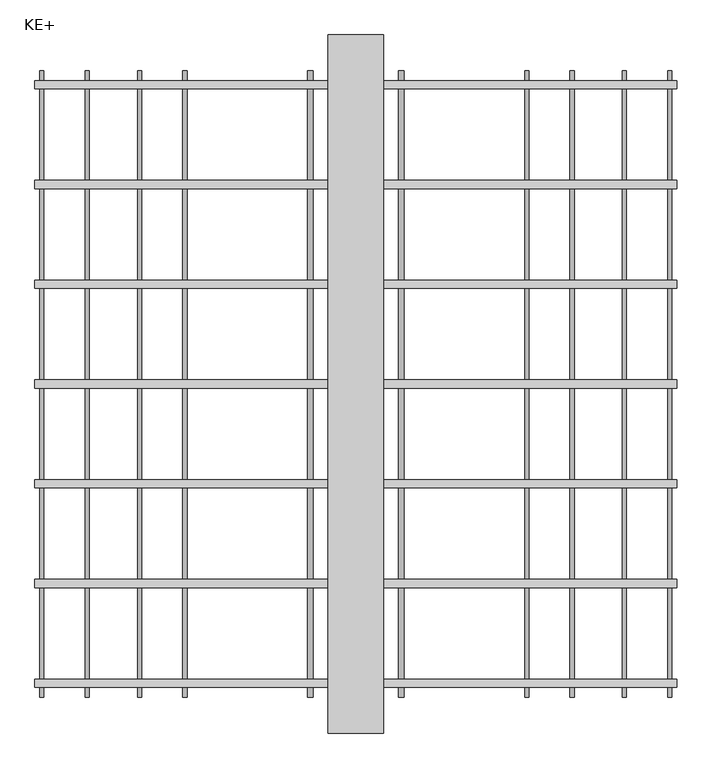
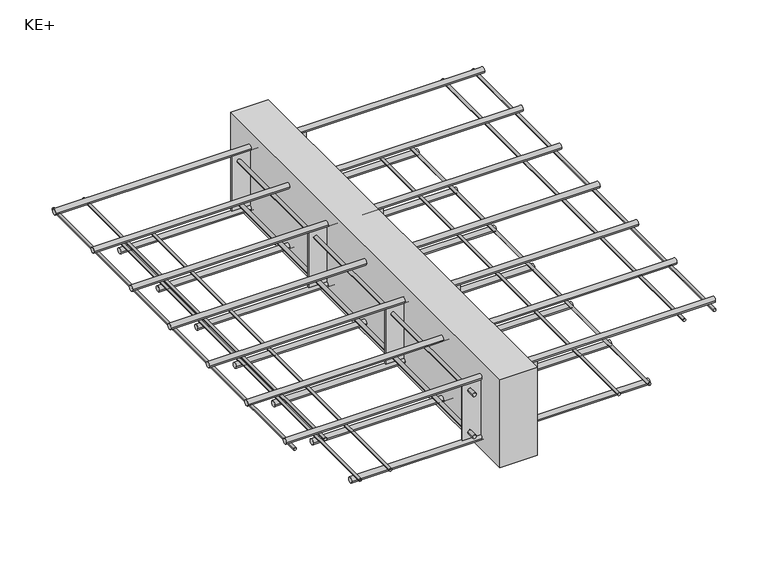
"""IFC4 building model written with IfcOpenShell, lengths in millimetres: fastener geometry, ACINOXplus_Typenreihe_K : KE+."""

from ifc_helpers import new_model, si_unit, point, frame, frame_2d, origin, place, context, project, spatial, polyline, circle_curve, trimmed, segment, composite_curve, outline, extrude, source, transform, mapped, element, save


def ke_af1f16a5(model_context):
    return source(origin(), model_context, "Body", "SweptSolid", [
        extrude(outline(polyline([(40.0, 500.0), (40.0, -500.0), (-40.0, -500.0), (-40.0, 500.0), (40.0, 500.0)])), frame((0.0, 0.0, -200.0), z_axis=(0.0, 0.0, 1.0), x_axis=(1.0, 0.0, 0.0)), (0.0, 0.0, 1.0), 200.0),
        extrude(outline(polyline([(80.0, -141.3571429), (80.0, -144.3571429), (-80.0, -144.3571429), (-80.0, -141.3571429), (80.0, -141.3571429)])), frame((0.0, 0.0, -167.0), z_axis=(0.0, 0.0, 1.0), x_axis=(1.0, 0.0, 0.0)), (0.0, 0.0, 1.0), 125.0),
        extrude(outline(polyline([(80.0, 144.3571429), (80.0, 141.3571429), (-80.0, 141.3571429), (-80.0, 144.3571429), (80.0, 144.3571429)])), frame((0.0, 0.0, -167.0), z_axis=(0.0, 0.0, 1.0), x_axis=(1.0, 0.0, 0.0)), (0.0, 0.0, 1.0), 125.0),
        extrude(outline(polyline([(80.0, -427.0714286), (80.0, -430.0714286), (-80.0, -430.0714286), (-80.0, -427.0714286), (80.0, -427.0714286)])), frame((0.0, 0.0, -167.0), z_axis=(0.0, 0.0, 1.0), x_axis=(1.0, 0.0, 0.0)), (0.0, 0.0, 1.0), 125.0),
        extrude(outline(polyline([(80.0, 430.0714286), (80.0, 427.0714286), (-80.0, 427.0714286), (-80.0, 430.0714286), (80.0, 430.0714286)])), frame((0.0, 0.0, -167.0), z_axis=(0.0, 0.0, 1.0), x_axis=(1.0, 0.0, 0.0)), (0.0, 0.0, 1.0), 125.0),
        extrude(outline(composite_curve([segment(trimmed(circle_curve(frame_2d((-152.0, -65.0)), 4.0), [point((-152.0, -61.0))], [point((-152.0, -69.0))], False, "CARTESIAN"), True, "CONTINUOUS"), segment(trimmed(circle_curve(frame_2d((-152.0, -65.0)), 4.0), [point((-152.0, -69.0))], [point((-152.0, -61.0))], False, "CARTESIAN"), True, "CONTINUOUS")], self_intersect=False)), frame((0.0, -448.5714286, 0.0), z_axis=(0.0, 1.0, 0.0), x_axis=(0.0, 0.0, 1.0)), (0.0, 0.0, 1.0), 18.5),
        extrude(outline(composite_curve([segment(trimmed(circle_curve(frame_2d((-152.0, -65.0)), 4.0), [point((-152.0, -69.0))], [point((-152.0, -61.0))], False, "CARTESIAN"), True, "CONTINUOUS"), segment(trimmed(circle_curve(frame_2d((-152.0, -65.0)), 4.0), [point((-152.0, -61.0))], [point((-152.0, -69.0))], False, "CARTESIAN"), True, "CONTINUOUS")], self_intersect=False)), frame((0.0, -427.0714286, 0.0), z_axis=(0.0, 1.0, 0.0), x_axis=(0.0, 0.0, 1.0)), (0.0, 0.0, 1.0), 568.4285714),
        extrude(outline(composite_curve([segment(trimmed(circle_curve(frame_2d((-152.0, -65.0)), 4.0), [point((-152.0, -69.0))], [point((-152.0, -61.0))], False, "CARTESIAN"), True, "CONTINUOUS"), segment(trimmed(circle_curve(frame_2d((-152.0, -65.0)), 4.0), [point((-152.0, -61.0))], [point((-152.0, -69.0))], False, "CARTESIAN"), True, "CONTINUOUS")], self_intersect=False)), frame((0.0, 430.0714286, 0.0), z_axis=(0.0, 1.0, 0.0), x_axis=(0.0, 0.0, 1.0)), (0.0, 0.0, 1.0), 18.5),
        extrude(outline(composite_curve([segment(trimmed(circle_curve(frame_2d((-152.0, -65.0)), 4.0), [point((-152.0, -69.0))], [point((-152.0, -61.0))], False, "CARTESIAN"), True, "CONTINUOUS"), segment(trimmed(circle_curve(frame_2d((-152.0, -65.0)), 4.0), [point((-152.0, -61.0))], [point((-152.0, -69.0))], False, "CARTESIAN"), True, "CONTINUOUS")], self_intersect=False)), frame((0.0, 144.3571429, 0.0), z_axis=(0.0, 1.0, 0.0), x_axis=(0.0, 0.0, 1.0)), (0.0, 0.0, 1.0), 282.7142857),
        extrude(outline(composite_curve([segment(trimmed(circle_curve(frame_2d((-152.0, 65.0)), 4.0), [point((-152.0, 69.0))], [point((-152.0, 61.0))], False, "CARTESIAN"), True, "CONTINUOUS"), segment(trimmed(circle_curve(frame_2d((-152.0, 65.0)), 4.0), [point((-152.0, 61.0))], [point((-152.0, 69.0))], False, "CARTESIAN"), True, "CONTINUOUS")], self_intersect=False)), frame((0.0, -448.5714286, 0.0), z_axis=(0.0, 1.0, 0.0), x_axis=(0.0, 0.0, 1.0)), (0.0, 0.0, 1.0), 18.5),
        extrude(outline(composite_curve([segment(trimmed(circle_curve(frame_2d((-152.0, 65.0)), 4.0), [point((-152.0, 61.0))], [point((-152.0, 69.0))], False, "CARTESIAN"), True, "CONTINUOUS"), segment(trimmed(circle_curve(frame_2d((-152.0, 65.0)), 4.0), [point((-152.0, 69.0))], [point((-152.0, 61.0))], False, "CARTESIAN"), True, "CONTINUOUS")], self_intersect=False)), frame((0.0, -427.0714286, 0.0), z_axis=(0.0, 1.0, 0.0), x_axis=(0.0, 0.0, 1.0)), (0.0, 0.0, 1.0), 568.4285714),
        extrude(outline(composite_curve([segment(trimmed(circle_curve(frame_2d((-152.0, 65.0)), 4.0), [point((-152.0, 61.0))], [point((-152.0, 69.0))], False, "CARTESIAN"), True, "CONTINUOUS"), segment(trimmed(circle_curve(frame_2d((-152.0, 65.0)), 4.0), [point((-152.0, 69.0))], [point((-152.0, 61.0))], False, "CARTESIAN"), True, "CONTINUOUS")], self_intersect=False)), frame((0.0, 430.0714286, 0.0), z_axis=(0.0, 1.0, 0.0), x_axis=(0.0, 0.0, 1.0)), (0.0, 0.0, 1.0), 18.5),
        extrude(outline(composite_curve([segment(trimmed(circle_curve(frame_2d((-152.0, 65.0)), 4.0), [point((-152.0, 61.0))], [point((-152.0, 69.0))], False, "CARTESIAN"), True, "CONTINUOUS"), segment(trimmed(circle_curve(frame_2d((-152.0, 65.0)), 4.0), [point((-152.0, 69.0))], [point((-152.0, 61.0))], False, "CARTESIAN"), True, "CONTINUOUS")], self_intersect=False)), frame((0.0, 144.3571429, 0.0), z_axis=(0.0, 1.0, 0.0), x_axis=(0.0, 0.0, 1.0)), (0.0, 0.0, 1.0), 282.7142857),
        extrude(outline(composite_curve([segment(trimmed(circle_curve(frame_2d((-57.0, -65.0)), 4.0), [point((-57.0, -61.0))], [point((-57.0, -69.0))], False, "CARTESIAN"), True, "CONTINUOUS"), segment(trimmed(circle_curve(frame_2d((-57.0, -65.0)), 4.0), [point((-57.0, -69.0))], [point((-57.0, -61.0))], False, "CARTESIAN"), True, "CONTINUOUS")], self_intersect=False)), frame((0.0, -448.5714286, 0.0), z_axis=(0.0, 1.0, 0.0), x_axis=(0.0, 0.0, 1.0)), (0.0, 0.0, 1.0), 18.5),
        extrude(outline(composite_curve([segment(trimmed(circle_curve(frame_2d((-57.0, -65.0)), 4.0), [point((-57.0, -69.0))], [point((-57.0, -61.0))], False, "CARTESIAN"), True, "CONTINUOUS"), segment(trimmed(circle_curve(frame_2d((-57.0, -65.0)), 4.0), [point((-57.0, -61.0))], [point((-57.0, -69.0))], False, "CARTESIAN"), True, "CONTINUOUS")], self_intersect=False)), frame((0.0, -427.0714286, 0.0), z_axis=(0.0, 1.0, 0.0), x_axis=(0.0, 0.0, 1.0)), (0.0, 0.0, 1.0), 568.4285714),
        extrude(outline(composite_curve([segment(trimmed(circle_curve(frame_2d((-57.0, -65.0)), 4.0), [point((-57.0, -69.0))], [point((-57.0, -61.0))], False, "CARTESIAN"), True, "CONTINUOUS"), segment(trimmed(circle_curve(frame_2d((-57.0, -65.0)), 4.0), [point((-57.0, -61.0))], [point((-57.0, -69.0))], False, "CARTESIAN"), True, "CONTINUOUS")], self_intersect=False)), frame((0.0, 430.0714286, 0.0), z_axis=(0.0, 1.0, 0.0), x_axis=(0.0, 0.0, 1.0)), (0.0, 0.0, 1.0), 18.5),
        extrude(outline(composite_curve([segment(trimmed(circle_curve(frame_2d((-57.0, -65.0)), 4.0), [point((-57.0, -69.0))], [point((-57.0, -61.0))], False, "CARTESIAN"), True, "CONTINUOUS"), segment(trimmed(circle_curve(frame_2d((-57.0, -65.0)), 4.0), [point((-57.0, -61.0))], [point((-57.0, -69.0))], False, "CARTESIAN"), True, "CONTINUOUS")], self_intersect=False)), frame((0.0, 144.3571429, 0.0), z_axis=(0.0, 1.0, 0.0), x_axis=(0.0, 0.0, 1.0)), (0.0, 0.0, 1.0), 282.7142857),
        extrude(outline(composite_curve([segment(trimmed(circle_curve(frame_2d((-57.0, 65.0)), 4.0), [point((-57.0, 69.0))], [point((-57.0, 61.0))], False, "CARTESIAN"), True, "CONTINUOUS"), segment(trimmed(circle_curve(frame_2d((-57.0, 65.0)), 4.0), [point((-57.0, 61.0))], [point((-57.0, 69.0))], False, "CARTESIAN"), True, "CONTINUOUS")], self_intersect=False)), frame((0.0, -448.5714286, 0.0), z_axis=(0.0, 1.0, 0.0), x_axis=(0.0, 0.0, 1.0)), (0.0, 0.0, 1.0), 18.5),
        extrude(outline(composite_curve([segment(trimmed(circle_curve(frame_2d((-57.0, 65.0)), 4.0), [point((-57.0, 61.0))], [point((-57.0, 69.0))], False, "CARTESIAN"), True, "CONTINUOUS"), segment(trimmed(circle_curve(frame_2d((-57.0, 65.0)), 4.0), [point((-57.0, 69.0))], [point((-57.0, 61.0))], False, "CARTESIAN"), True, "CONTINUOUS")], self_intersect=False)), frame((0.0, -427.0714286, 0.0), z_axis=(0.0, 1.0, 0.0), x_axis=(0.0, 0.0, 1.0)), (0.0, 0.0, 1.0), 568.4285714),
        extrude(outline(composite_curve([segment(trimmed(circle_curve(frame_2d((-57.0, 65.0)), 4.0), [point((-57.0, 61.0))], [point((-57.0, 69.0))], False, "CARTESIAN"), True, "CONTINUOUS"), segment(trimmed(circle_curve(frame_2d((-57.0, 65.0)), 4.0), [point((-57.0, 69.0))], [point((-57.0, 61.0))], False, "CARTESIAN"), True, "CONTINUOUS")], self_intersect=False)), frame((0.0, 430.0714286, 0.0), z_axis=(0.0, 1.0, 0.0), x_axis=(0.0, 0.0, 1.0)), (0.0, 0.0, 1.0), 18.5),
        extrude(outline(composite_curve([segment(trimmed(circle_curve(frame_2d((-57.0, 65.0)), 4.0), [point((-57.0, 61.0))], [point((-57.0, 69.0))], False, "CARTESIAN"), True, "CONTINUOUS"), segment(trimmed(circle_curve(frame_2d((-57.0, 65.0)), 4.0), [point((-57.0, 69.0))], [point((-57.0, 61.0))], False, "CARTESIAN"), True, "CONTINUOUS")], self_intersect=False)), frame((0.0, 144.3571429, 0.0), z_axis=(0.0, 1.0, 0.0), x_axis=(0.0, 0.0, 1.0)), (0.0, 0.0, 1.0), 282.7142857),
        extrude(outline(composite_curve([segment(trimmed(circle_curve(frame_2d((142.8571429, -173.0)), 6.0), [point((136.8571429, -173.0))], [point((148.8571429, -173.0))], False, "CARTESIAN"), True, "CONTINUOUS"), segment(trimmed(circle_curve(frame_2d((142.8571429, -173.0)), 6.0), [point((148.8571429, -173.0))], [point((136.8571429, -173.0))], False, "CARTESIAN"), True, "CONTINUOUS")], self_intersect=False)), frame((-320.0, 0.0, 0.0), z_axis=(1.0, 0.0, 0.0), x_axis=(0.0, 1.0, 0.0)), (0.0, 0.0, 1.0), 640.0),
        extrude(outline(composite_curve([segment(trimmed(circle_curve(frame_2d((0.0, -173.0)), 6.0), [point((-6.0, -173.0))], [point((6.0, -173.0))], False, "CARTESIAN"), True, "CONTINUOUS"), segment(trimmed(circle_curve(frame_2d((0.0, -173.0)), 6.0), [point((6.0, -173.0))], [point((-6.0, -173.0))], False, "CARTESIAN"), True, "CONTINUOUS")], self_intersect=False)), frame((-320.0, 0.0, 0.0), z_axis=(1.0, 0.0, 0.0), x_axis=(0.0, 1.0, 0.0)), (0.0, 0.0, 1.0), 640.0),
        extrude(outline(composite_curve([segment(trimmed(circle_curve(frame_2d((-142.8571429, -173.0)), 6.0), [point((-148.8571429, -173.0))], [point((-136.8571429, -173.0))], False, "CARTESIAN"), True, "CONTINUOUS"), segment(trimmed(circle_curve(frame_2d((-142.8571429, -173.0)), 6.0), [point((-136.8571429, -173.0))], [point((-148.8571429, -173.0))], False, "CARTESIAN"), True, "CONTINUOUS")], self_intersect=False)), frame((-320.0, 0.0, 0.0), z_axis=(1.0, 0.0, 0.0), x_axis=(0.0, 1.0, 0.0)), (0.0, 0.0, 1.0), 640.0),
        extrude(outline(composite_curve([segment(trimmed(circle_curve(frame_2d((285.7142857, -173.0)), 6.0), [point((279.7142857, -173.0))], [point((291.7142857, -173.0))], False, "CARTESIAN"), True, "CONTINUOUS"), segment(trimmed(circle_curve(frame_2d((285.7142857, -173.0)), 6.0), [point((291.7142857, -173.0))], [point((279.7142857, -173.0))], False, "CARTESIAN"), True, "CONTINUOUS")], self_intersect=False)), frame((-320.0, 0.0, 0.0), z_axis=(1.0, 0.0, 0.0), x_axis=(0.0, 1.0, 0.0)), (0.0, 0.0, 1.0), 640.0),
        extrude(outline(composite_curve([segment(trimmed(circle_curve(frame_2d((428.5714286, -173.0)), 6.0), [point((422.5714286, -173.0))], [point((434.5714286, -173.0))], False, "CARTESIAN"), True, "CONTINUOUS"), segment(trimmed(circle_curve(frame_2d((428.5714286, -173.0)), 6.0), [point((434.5714286, -173.0))], [point((422.5714286, -173.0))], False, "CARTESIAN"), True, "CONTINUOUS")], self_intersect=False)), frame((-320.0, 0.0, 0.0), z_axis=(1.0, 0.0, 0.0), x_axis=(0.0, 1.0, 0.0)), (0.0, 0.0, 1.0), 640.0),
        extrude(outline(composite_curve([segment(trimmed(circle_curve(frame_2d((-285.7142857, -173.0)), 6.0), [point((-291.7142857, -173.0))], [point((-279.7142857, -173.0))], False, "CARTESIAN"), True, "CONTINUOUS"), segment(trimmed(circle_curve(frame_2d((-285.7142857, -173.0)), 6.0), [point((-279.7142857, -173.0))], [point((-291.7142857, -173.0))], False, "CARTESIAN"), True, "CONTINUOUS")], self_intersect=False)), frame((-320.0, 0.0, 0.0), z_axis=(1.0, 0.0, 0.0), x_axis=(0.0, 1.0, 0.0)), (0.0, 0.0, 1.0), 640.0),
        extrude(outline(composite_curve([segment(trimmed(circle_curve(frame_2d((-428.5714286, -173.0)), 6.0), [point((-434.5714286, -173.0))], [point((-422.5714286, -173.0))], False, "CARTESIAN"), True, "CONTINUOUS"), segment(trimmed(circle_curve(frame_2d((-428.5714286, -173.0)), 6.0), [point((-422.5714286, -173.0))], [point((-434.5714286, -173.0))], False, "CARTESIAN"), True, "CONTINUOUS")], self_intersect=False)), frame((-320.0, 0.0, 0.0), z_axis=(1.0, 0.0, 0.0), x_axis=(0.0, 1.0, 0.0)), (0.0, 0.0, 1.0), 640.0),
        extrude(outline(composite_curve([segment(trimmed(circle_curve(frame_2d((142.8571429, -36.0)), 6.0), [point((136.8571429, -36.0))], [point((148.8571429, -36.0))], False, "CARTESIAN"), True, "CONTINUOUS"), segment(trimmed(circle_curve(frame_2d((142.8571429, -36.0)), 6.0), [point((148.8571429, -36.0))], [point((136.8571429, -36.0))], False, "CARTESIAN"), True, "CONTINUOUS")], self_intersect=False)), frame((-460.0, 0.0, 0.0), z_axis=(1.0, 0.0, 0.0), x_axis=(0.0, 1.0, 0.0)), (0.0, 0.0, 1.0), 920.0),
        extrude(outline(composite_curve([segment(trimmed(circle_curve(frame_2d((0.0, -36.0)), 6.0), [point((-6.0, -36.0))], [point((6.0, -36.0))], False, "CARTESIAN"), True, "CONTINUOUS"), segment(trimmed(circle_curve(frame_2d((0.0, -36.0)), 6.0), [point((6.0, -36.0))], [point((-6.0, -36.0))], False, "CARTESIAN"), True, "CONTINUOUS")], self_intersect=False)), frame((-460.0, 0.0, 0.0), z_axis=(1.0, 0.0, 0.0), x_axis=(0.0, 1.0, 0.0)), (0.0, 0.0, 1.0), 920.0),
        extrude(outline(composite_curve([segment(trimmed(circle_curve(frame_2d((-142.8571429, -36.0)), 6.0), [point((-148.8571429, -36.0))], [point((-136.8571429, -36.0))], False, "CARTESIAN"), True, "CONTINUOUS"), segment(trimmed(circle_curve(frame_2d((-142.8571429, -36.0)), 6.0), [point((-136.8571429, -36.0))], [point((-148.8571429, -36.0))], False, "CARTESIAN"), True, "CONTINUOUS")], self_intersect=False)), frame((-460.0, 0.0, 0.0), z_axis=(1.0, 0.0, 0.0), x_axis=(0.0, 1.0, 0.0)), (0.0, 0.0, 1.0), 920.0),
        extrude(outline(composite_curve([segment(trimmed(circle_curve(frame_2d((285.7142857, -36.0)), 6.0), [point((279.7142857, -36.0))], [point((291.7142857, -36.0))], False, "CARTESIAN"), True, "CONTINUOUS"), segment(trimmed(circle_curve(frame_2d((285.7142857, -36.0)), 6.0), [point((291.7142857, -36.0))], [point((279.7142857, -36.0))], False, "CARTESIAN"), True, "CONTINUOUS")], self_intersect=False)), frame((-460.0, 0.0, 0.0), z_axis=(1.0, 0.0, 0.0), x_axis=(0.0, 1.0, 0.0)), (0.0, 0.0, 1.0), 920.0),
        extrude(outline(composite_curve([segment(trimmed(circle_curve(frame_2d((428.5714286, -36.0)), 6.0), [point((422.5714286, -36.0))], [point((434.5714286, -36.0))], False, "CARTESIAN"), True, "CONTINUOUS"), segment(trimmed(circle_curve(frame_2d((428.5714286, -36.0)), 6.0), [point((434.5714286, -36.0))], [point((422.5714286, -36.0))], False, "CARTESIAN"), True, "CONTINUOUS")], self_intersect=False)), frame((-460.0, 0.0, 0.0), z_axis=(1.0, 0.0, 0.0), x_axis=(0.0, 1.0, 0.0)), (0.0, 0.0, 1.0), 920.0),
        extrude(outline(composite_curve([segment(trimmed(circle_curve(frame_2d((-285.7142857, -36.0)), 6.0), [point((-291.7142857, -36.0))], [point((-279.7142857, -36.0))], False, "CARTESIAN"), True, "CONTINUOUS"), segment(trimmed(circle_curve(frame_2d((-285.7142857, -36.0)), 6.0), [point((-279.7142857, -36.0))], [point((-291.7142857, -36.0))], False, "CARTESIAN"), True, "CONTINUOUS")], self_intersect=False)), frame((-460.0, 0.0, 0.0), z_axis=(1.0, 0.0, 0.0), x_axis=(0.0, 1.0, 0.0)), (0.0, 0.0, 1.0), 920.0),
        extrude(outline(composite_curve([segment(trimmed(circle_curve(frame_2d((-428.5714286, -36.0)), 6.0), [point((-434.5714286, -36.0))], [point((-422.5714286, -36.0))], False, "CARTESIAN"), True, "CONTINUOUS"), segment(trimmed(circle_curve(frame_2d((-428.5714286, -36.0)), 6.0), [point((-422.5714286, -36.0))], [point((-434.5714286, -36.0))], False, "CARTESIAN"), True, "CONTINUOUS")], self_intersect=False)), frame((-460.0, 0.0, 0.0), z_axis=(1.0, 0.0, 0.0), x_axis=(0.0, 1.0, 0.0)), (0.0, 0.0, 1.0), 920.0),
        extrude(outline(composite_curve([segment(trimmed(circle_curve(frame_2d((-164.0, -310.0)), 3.0), [point((-164.0, -307.0))], [point((-164.0, -313.0))], False, "CARTESIAN"), True, "CONTINUOUS"), segment(trimmed(circle_curve(frame_2d((-164.0, -310.0)), 3.0), [point((-164.0, -313.0))], [point((-164.0, -307.0))], False, "CARTESIAN"), True, "CONTINUOUS")], self_intersect=False)), frame((0.0, -448.5714286, 0.0), z_axis=(0.0, 1.0, 0.0), x_axis=(0.0, 0.0, 1.0)), (0.0, 0.0, 1.0), 897.1428571),
        extrude(outline(composite_curve([segment(trimmed(circle_curve(frame_2d((-164.0, -245.0)), 3.0), [point((-164.0, -242.0))], [point((-164.0, -248.0))], False, "CARTESIAN"), True, "CONTINUOUS"), segment(trimmed(circle_curve(frame_2d((-164.0, -245.0)), 3.0), [point((-164.0, -248.0))], [point((-164.0, -242.0))], False, "CARTESIAN"), True, "CONTINUOUS")], self_intersect=False)), frame((0.0, -448.5714286, 0.0), z_axis=(0.0, 1.0, 0.0), x_axis=(0.0, 0.0, 1.0)), (0.0, 0.0, 1.0), 897.1428571),
        extrude(outline(composite_curve([segment(trimmed(circle_curve(frame_2d((-164.0, 245.0)), 3.0), [point((-164.0, 248.0))], [point((-164.0, 242.0))], False, "CARTESIAN"), True, "CONTINUOUS"), segment(trimmed(circle_curve(frame_2d((-164.0, 245.0)), 3.0), [point((-164.0, 242.0))], [point((-164.0, 248.0))], False, "CARTESIAN"), True, "CONTINUOUS")], self_intersect=False)), frame((0.0, -448.5714286, 0.0), z_axis=(0.0, 1.0, 0.0), x_axis=(0.0, 0.0, 1.0)), (0.0, 0.0, 1.0), 897.1428571),
        extrude(outline(composite_curve([segment(trimmed(circle_curve(frame_2d((-164.0, 310.0)), 3.0), [point((-164.0, 313.0))], [point((-164.0, 307.0))], False, "CARTESIAN"), True, "CONTINUOUS"), segment(trimmed(circle_curve(frame_2d((-164.0, 310.0)), 3.0), [point((-164.0, 307.0))], [point((-164.0, 313.0))], False, "CARTESIAN"), True, "CONTINUOUS")], self_intersect=False)), frame((0.0, -448.5714286, 0.0), z_axis=(0.0, 1.0, 0.0), x_axis=(0.0, 0.0, 1.0)), (0.0, 0.0, 1.0), 897.1428571),
        extrude(outline(composite_curve([segment(trimmed(circle_curve(frame_2d((-45.0, 385.0)), 3.0), [point((-45.0, 388.0))], [point((-45.0, 382.0))], False, "CARTESIAN"), True, "CONTINUOUS"), segment(trimmed(circle_curve(frame_2d((-45.0, 385.0)), 3.0), [point((-45.0, 382.0))], [point((-45.0, 388.0))], False, "CARTESIAN"), True, "CONTINUOUS")], self_intersect=False)), frame((0.0, -448.5714286, 0.0), z_axis=(0.0, 1.0, 0.0), x_axis=(0.0, 0.0, 1.0)), (0.0, 0.0, 1.0), 897.1428571),
        extrude(outline(composite_curve([segment(trimmed(circle_curve(frame_2d((-45.0, 450.0)), 3.0), [point((-45.0, 453.0))], [point((-45.0, 447.0))], False, "CARTESIAN"), True, "CONTINUOUS"), segment(trimmed(circle_curve(frame_2d((-45.0, 450.0)), 3.0), [point((-45.0, 447.0))], [point((-45.0, 453.0))], False, "CARTESIAN"), True, "CONTINUOUS")], self_intersect=False)), frame((0.0, -448.5714286, 0.0), z_axis=(0.0, 1.0, 0.0), x_axis=(0.0, 0.0, 1.0)), (0.0, 0.0, 1.0), 897.1428571),
        extrude(outline(composite_curve([segment(trimmed(circle_curve(frame_2d((-45.0, -450.0)), 3.0), [point((-45.0, -447.0))], [point((-45.0, -453.0))], False, "CARTESIAN"), True, "CONTINUOUS"), segment(trimmed(circle_curve(frame_2d((-45.0, -450.0)), 3.0), [point((-45.0, -453.0))], [point((-45.0, -447.0))], False, "CARTESIAN"), True, "CONTINUOUS")], self_intersect=False)), frame((0.0, -448.5714286, 0.0), z_axis=(0.0, 1.0, 0.0), x_axis=(0.0, 0.0, 1.0)), (0.0, 0.0, 1.0), 897.1428571),
        extrude(outline(composite_curve([segment(trimmed(circle_curve(frame_2d((-45.0, -385.0)), 3.0), [point((-45.0, -382.0))], [point((-45.0, -388.0))], False, "CARTESIAN"), True, "CONTINUOUS"), segment(trimmed(circle_curve(frame_2d((-45.0, -385.0)), 3.0), [point((-45.0, -388.0))], [point((-45.0, -382.0))], False, "CARTESIAN"), True, "CONTINUOUS")], self_intersect=False)), frame((0.0, -448.5714286, 0.0), z_axis=(0.0, 1.0, 0.0), x_axis=(0.0, 0.0, 1.0)), (0.0, 0.0, 1.0), 897.1428571),
    ])


if __name__ == "__main__":
    model = new_model("IFC4")
    model_context = context("Model", 3, world=origin())
    ifc_project = project(units=[si_unit("LENGTHUNIT", "METRE", prefix="MILLI")], contexts=[model_context])
    site = spatial("IfcSite", under=ifc_project)
    building = spatial("IfcBuilding", under=site)
    placement = place(None, origin())
    ke_shape = ke_af1f16a5(model_context)
    element("IfcFastener", 1, ObjectType="ACINOXplus_Typenreihe_K : KE+", at=placement, inside=building, context=model_context, shape_type="MappedRepresentation", body=[
        mapped(ke_shape, transform((0.0, 0.0, 0.0), x_axis=(1.0, 0.0, 0.0), y_axis=(0.0, 1.0, 0.0), z_axis=(0.0, 0.0, 1.0))),
    ])
    save(model, "model.ifc")
